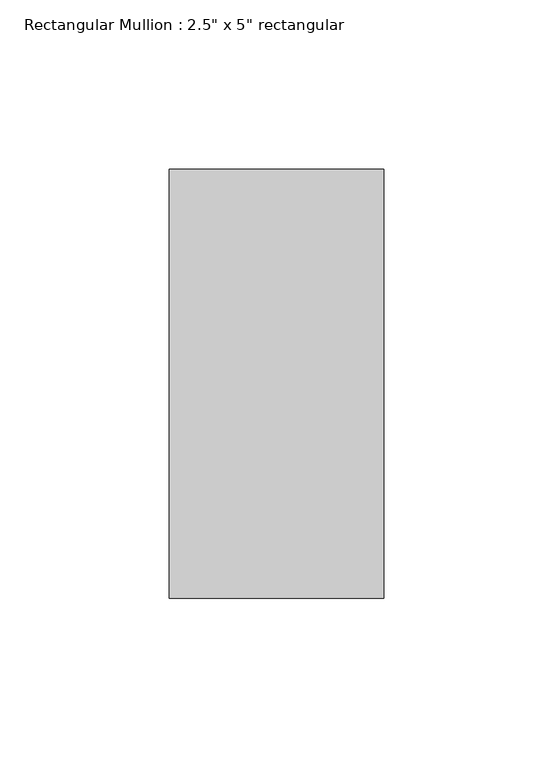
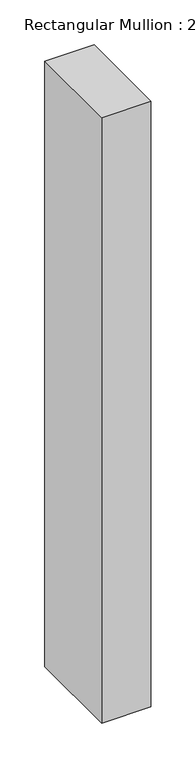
"""IFC4 building model written with IfcOpenShell, lengths in millimetres: member geometry."""

from ifc_helpers import new_model, si_unit, frame, origin, place, context, project, spatial, polyline, outline, extrude, source, transform, mapped, element, save


def member_983e7515(model_context):
    return source(origin(), model_context, "Body", "SweptSolid", [
        extrude(outline(polyline([(0.0, 50.8), (0.0, -76.2), (-63.5, -76.2), (-63.5, 50.8), (0.0, 50.8)])), frame((0.0, 0.0, -825.1359001), z_axis=(0.0, 0.0, 1.0), x_axis=(1.0, 0.0, 0.0)), (0.0, 0.0, 1.0), 825.1359001),
    ])


if __name__ == "__main__":
    model = new_model("IFC4")
    model_context = context("Model", 3, world=origin())
    ifc_project = project(units=[si_unit("LENGTHUNIT", "METRE", prefix="MILLI")], contexts=[model_context])
    site = spatial("IfcSite", under=ifc_project)
    building = spatial("IfcBuilding", under=site)
    placement = place(None, origin())
    member_shape = member_983e7515(model_context)
    element("IfcMember", 1, ObjectType="Rectangular Mullion : 2.5\" x 5\" rectangular", at=placement, inside=building, context=model_context, shape_type="MappedRepresentation", body=[
        mapped(member_shape, transform((0.0, 0.0, 0.0), x_axis=(1.0, 0.0, 0.0), y_axis=(0.0, 1.0, 0.0), z_axis=(0.0, 0.0, 1.0))),
    ])
    save(model, "model.ifc")
